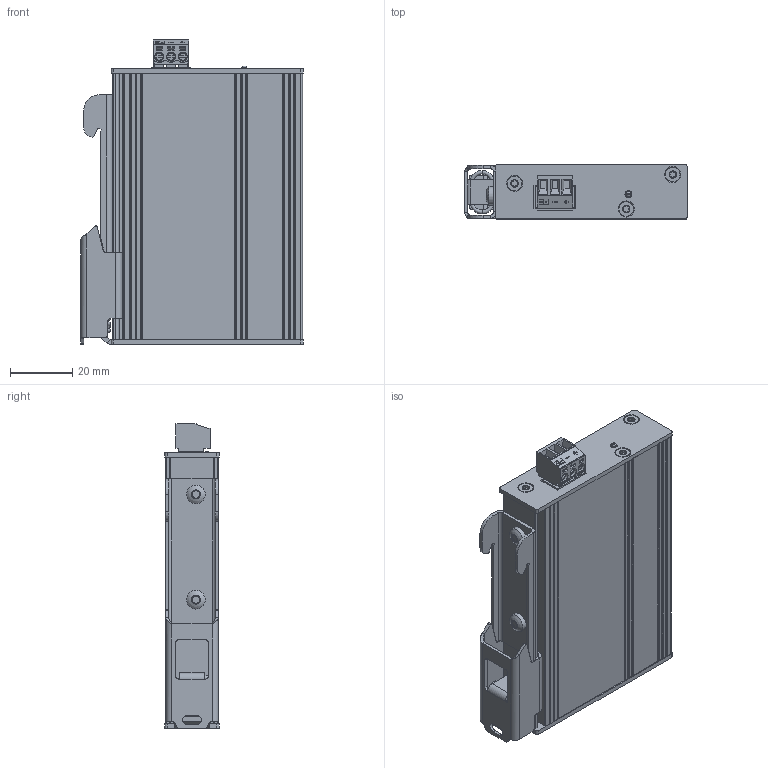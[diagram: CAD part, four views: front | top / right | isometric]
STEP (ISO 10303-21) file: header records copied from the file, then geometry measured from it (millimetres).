
FILE_DESCRIPTION(('TFLEX Exchange Step'),'2;1');
FILE_NAME('TZCA214401A_ZERO-RS5-1401.stp', '2023-09-08T16:57:32+02:00',('User'),('Unknown organisation'),'TFLEX Exchange 2019.0','T-FLEX CAD','Unknown authorisation');
FILE_SCHEMA( ('AUTOMOTIVE_DESIGN { 1 0 10303 214 1 1 1 1 }') );
Length unit declared in the file: millimetre
Products named in the file (1): TZCA02002A_ZERO-5
Bounding box: 71.8 x 17.5 x 98.3 mm (x, y, z)
Volume: 87162.9 mm3; surface area: 29025.6 mm2
Topology: 2 solids, 7 shells, 1873 faces, 5066 edges, 3327 vertices
Faces by surface type: plane 1337, cylinder 381, bspline 96, torus 36, cone 21, sphere 2
Full cylindrical faces by diameter (mm): 1.2 x11, 1.35 x3, 1.6 x1, 1.9 x3, 2 x3, 2.5 x6, 2.7 x6, 2.9 x6, 3 x2, 3.5 x2, 4.7 x6, 6 x2
Entity records: 68764 total; most frequent: CARTESIAN_POINT 21453, ORIENTED_EDGE 10132, DIRECTION 8603, EDGE_CURVE 5066, VERTEX_POINT 3327, VECTOR 3193, LINE 3193, AXIS2_PLACEMENT_3D 2705
